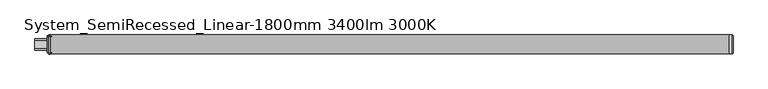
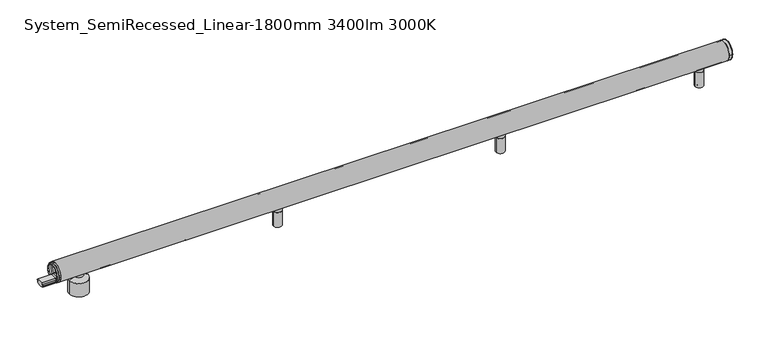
"""IFC4 building model written with IfcOpenShell, lengths in millimetres: light fixture geometry, ARTEMIDE-AoL-System-Linear_WallCeiling_US : System_SemiRecessed_Linear-1800mm 3400lm 3000K."""

from ifc_helpers import new_model, si_unit, point, frame, frame_2d, origin, place, context, project, spatial, polyline, circle_curve, ellipse_curve, trimmed, segment, composite_curve, outline, extrude, source, transform, mapped, element, save
from ifc_brep_helpers import plane_surface, cylinder_surface, revolved_surface, advanced_brep


def system_semirecessed_linear_1800mm_3400lm_3000k_442b0772(model_context):
    return source(origin(), model_context, "Body", "SolidModel", [
        advanced_brep(
        [(-2.0, 25.0245983, 74.9754017), (-2.0, -25.0245983, 74.9754017), (-2.0, -9.5062575, 60.6916114), (-2.0, -9.5062575, 64.3781516), (-2.0, 9.5062575, 64.3781516), (-2.0, 9.5062575, 60.6916114), (-2.0, 15.4273739, 60.6916114), (-2.0, 17.2867732, 60.6916114), (-2.0, -17.2867732, 60.6916114), (-2.0, -15.4273739, 60.6916114), (2.0, 25.0245983, 74.9754017), (2.0, -25.0245983, 74.9754017), (2.0, -9.5062575, 60.6916114), (2.0, -15.4273739, 60.6916114), (2.0, -17.2867732, 60.6916114), (2.0, 17.2867732, 60.6916114), (2.0, 15.4273739, 60.6916114), (2.0, 9.5062575, 60.6916114), (2.0, 9.5062575, 64.3781516), (2.0, -9.5062575, 64.3781516), (-6.0, -15.4273739, 60.6916114), (-6.0, -17.2867732, 60.6916114), (-6.0, 17.2867732, 60.6916114), (-6.0, 15.4273739, 60.6916114), (6.0, -15.4273739, 60.6916114), (6.0, 15.4273739, 60.6916114), (6.0, 17.2867732, 60.6916114), (6.0, -17.2867732, 60.6916114)],
        [
            (0, 1, circle_curve(frame((-2.0, 0.0, 74.9754017), z_axis=(-1.0, 0.0, 0.0), x_axis=(0.0, -1.0, 0.0)), 25.0245983)),
            (1, 0, circle_curve(frame((-2.0, 0.0, 74.9754017), z_axis=(-1.0, 0.0, 0.0), x_axis=(0.0, -1.0, 0.0)), 25.0245983)),
            (2, 3),
            (3, 4),
            (4, 5),
            (5, 6),
            (6, 7),
            (7, 8, circle_curve(frame((-2.0, 0.0, 74.9754017), z_axis=(1.0, 0.0, 0.0), x_axis=(0.0, -1.0, 0.0)), 22.4245221)),
            (8, 9),
            (9, 2),
            (10, 11, circle_curve(frame((2.0, 0.0, 74.9754017), z_axis=(1.0, 0.0, 0.0), x_axis=(0.0, -1.0, 0.0)), 25.0245983)),
            (11, 10, circle_curve(frame((2.0, 0.0, 74.9754017), z_axis=(1.0, 0.0, 0.0), x_axis=(0.0, -1.0, 0.0)), 25.0245983)),
            (12, 13),
            (13, 14),
            (14, 15, circle_curve(frame((2.0, 0.0, 74.9754017), z_axis=(-1.0, 0.0, 0.0), x_axis=(0.0, -1.0, 0.0)), 22.4245221)),
            (15, 16),
            (16, 17),
            (17, 18),
            (18, 19),
            (19, 12),
            (5, 17),
            (16, 6),
            (9, 13),
            (12, 2),
            (19, 3),
            (0, 10),
            (11, 1),
            (16, 13, circle_curve(frame((2.0, 0.0, 74.9754017), z_axis=(1.0, 0.0, 0.0), x_axis=(0.0, -1.0, 0.0)), 21.0245221)),
            (9, 6, circle_curve(frame((-2.0, 0.0, 74.9754017), z_axis=(-1.0, 0.0, 0.0), x_axis=(0.0, -1.0, 0.0)), 21.0245221)),
            (20, 21),
            (21, 22, circle_curve(frame((-6.0, 0.0, 74.9754017), z_axis=(-1.0, 0.0, 0.0), x_axis=(0.0, -1.0, 0.0)), 22.4245221)),
            (22, 23),
            (23, 20, circle_curve(frame((-6.0, 0.0, 74.9754017), z_axis=(1.0, 0.0, 0.0), x_axis=(0.0, -1.0, 0.0)), 21.0245221)),
            (24, 25, circle_curve(frame((6.0, 0.0, 74.9754017), z_axis=(-1.0, 0.0, 0.0), x_axis=(0.0, -1.0, 0.0)), 21.0245221)),
            (25, 26),
            (26, 27, circle_curve(frame((6.0, 0.0, 74.9754017), z_axis=(1.0, 0.0, 0.0), x_axis=(0.0, -1.0, 0.0)), 22.4245221)),
            (27, 24),
            (23, 6),
            (9, 20),
            (24, 13),
            (16, 25),
            (8, 21),
            (27, 14),
            (7, 22),
            (26, 15),
            (18, 4),
        ],
        [
            plane_surface(frame((-2.0, 0.0, 74.9754017), z_axis=(-1.0, 0.0, 0.0), x_axis=(0.0, 0.0, -1.0))),
            plane_surface(frame((2.0, 0.0, 74.9754017), z_axis=(1.0, 0.0, 0.0), x_axis=(0.0, 0.0, -1.0))),
            plane_surface(frame((-2.0, 9.5062575, 60.6916114), z_axis=(0.0, 0.0, 1.0), x_axis=(1.0, 0.0, 0.0))),
            plane_surface(frame((-2.0, -15.4273739, 60.6916114), z_axis=(0.0, 0.0, 1.0), x_axis=(1.0, 0.0, 0.0))),
            plane_surface(frame((-2.0, -9.5062575, 60.6916114), z_axis=(0.0, -1.0, 0.0), x_axis=(1.0, 0.0, 0.0))),
            cylinder_surface(frame((-2.0, 0.0, 74.9754017), z_axis=(-1.0, 0.0, 0.0), x_axis=(0.0, -1.0, 0.0)), 25.0245983),
            revolved_surface(polyline([(2.0, -21.0245221, 74.9754017), (-2.0, -21.0245221, 74.9754017)]), (-2.0, 0.0, 74.9754017), (1.0, 0.0, 0.0)),
            plane_surface(frame((-6.0, 0.0, 74.9754017), z_axis=(-1.0, 0.0, 0.0), x_axis=(0.0, 0.0, -1.0))),
            plane_surface(frame((6.0, 0.0, 74.9754017), z_axis=(1.0, 0.0, 0.0), x_axis=(0.0, 0.0, -1.0))),
            revolved_surface(polyline([(-2.0, -21.0245221, 74.9754017), (-6.0, -21.0245221, 74.9754017)]), (-6.0, 0.0, 74.9754017), (1.0, 0.0, 0.0)),
            revolved_surface(polyline([(6.0, -21.0245221, 74.9754017), (2.0, -21.0245221, 74.9754017)]), (-6.0, 0.0, 74.9754017), (1.0, 0.0, 0.0)),
            plane_surface(frame((-6.0, -15.4273739, 60.6916114), z_axis=(0.0, 0.0, -1.0), x_axis=(1.0, 0.0, 0.0))),
            cylinder_surface(frame((-6.0, 0.0, 74.9754017), z_axis=(-1.0, 0.0, 0.0), x_axis=(0.0, -1.0, 0.0)), 22.4245221),
            plane_surface(frame((-6.0, 17.2867732, 60.6916114), z_axis=(0.0, 0.0, -1.0), x_axis=(1.0, 0.0, 0.0))),
            plane_surface(frame((-2.0, -9.5062575, 64.3781516), z_axis=(0.0, 0.0, 1.0), x_axis=(1.0, 0.0, 0.0))),
            plane_surface(frame((-2.0, 9.5062575, 64.3781516), z_axis=(0.0, 1.0, 0.0), x_axis=(1.0, 0.0, 0.0))),
        ],
        [
            (0, [[1, 2], [3, 4, 5, 6, 7, 8, 9, 10]]),
            (1, [[11, 12], [13, 14, 15, 16, 17, 18, 19, 20]]),
            (2, [[-6, 21, -17, 22]]),
            (3, [[-10, 23, -13, 24]]),
            (4, [[-3, -24, -20, 25]]),
            (5, [[-1, 26, -12, 27]]),
            (6, [[-22, 28, -23, 29]]),
            (7, [[30, 31, 32, 33]]),
            (8, [[34, 35, 36, 37]]),
            (9, [[-33, 38, -29, 39]]),
            (10, [[-34, 40, -28, 41]]),
            (11, [[-30, -39, -9, 42]]),
            (11, [[-37, 43, -14, -40]]),
            (12, [[-31, -42, -8, 44]]),
            (12, [[-36, 45, -15, -43]]),
            (13, [[-32, -44, -7, -38]]),
            (13, [[-35, -41, -16, -45]]),
            (5, [[-2, -27, -11, -26]]),
            (14, [[-4, -25, -19, 46]]),
            (15, [[-5, -46, -18, -21]]),
        ],
    ),
        extrude(outline(composite_curve([segment(polyline([(-11.75, 57.2067494), (-15.304087, 57.2067494), (-15.304087, 58.7367744), (-9.5062575, 58.7367744), (-9.5062575, 64.3781516), (9.5062575, 64.3781516), (9.5062575, 58.7367744), (15.304087, 58.7367744), (15.304087, 57.2067494), (11.75, 57.2067494), (11.75, 52.880877)]), True, "CONTINUOUS"), segment(trimmed(circle_curve(frame_2d((0.0, 74.9754017)), 25.0245983), [point((11.75, 52.880877))], [point((-11.75, 52.880877))], False, "CARTESIAN"), True, "CONTINUOUS"), segment(polyline([(-11.75, 52.880877), (-11.75, 57.2067494)]), True, "CONTINUOUS")], self_intersect=False)), frame((2.0, 0.0, 0.0), z_axis=(1.0, 0.0, 0.0), x_axis=(0.0, 1.0, 0.0)), (0.0, 0.0, 1.0), 36.0),
        extrude(outline(composite_curve([segment(polyline([(-11.75, 57.2067494), (-15.304087, 57.2067494), (-15.304087, 58.7367744), (-9.5062575, 58.7367744), (-9.5062575, 64.3781516), (9.5062575, 64.3781516), (9.5062575, 58.7367744), (15.304087, 58.7367744), (15.304087, 57.2067494), (11.75, 57.2067494), (11.75, 52.880877)]), True, "CONTINUOUS"), segment(trimmed(circle_curve(frame_2d((0.0, 74.9754017)), 25.0245983), [point((11.75, 52.880877))], [point((-11.75, 52.880877))], False, "CARTESIAN"), True, "CONTINUOUS"), segment(polyline([(-11.75, 52.880877), (-11.75, 57.2067494)]), True, "CONTINUOUS")], self_intersect=False)), frame((-38.0, 0.0, 0.0), z_axis=(1.0, 0.0, 0.0), x_axis=(0.0, 1.0, 0.0)), (0.0, 0.0, 1.0), 36.0),
        advanced_brep(
        [(588.6387897, 0.0, 1.0), (598.027877, 0.0, 1.0), (598.027877, 0.0, 0.0), (588.6387897, 0.0, 0.0), (582.1387897, 0.0, 1.0), (604.527877, 0.0, 1.0), (582.1387897, 0.0, 42.5), (604.527877, 0.0, 42.5), (584.6144141, 0.0, 42.5), (602.0522526, 0.0, 42.5), (584.6144141, 0.0, 43.4995055), (602.0522526, 0.0, 43.4995055), (582.1387897, 0.0, 43.4995055), (604.527877, 0.0, 43.4995055), (582.1387897, 0.0, 52.9333396), (604.527877, 0.0, 52.9333396), (593.3333333, 0.0, 52.9333396), (593.3333333, 0.0, 0.0)],
        [
            (0, 1, circle_curve(frame((593.3333333, 0.0, 1.0), z_axis=(0.0, 0.0, -1.0), x_axis=(1.0, 0.0, 0.0)), 4.6945436)),
            (1, 2),
            (2, 3, circle_curve(frame((593.3333333, 0.0, 0.0), z_axis=(0.0, 0.0, 1.0), x_axis=(1.0, 0.0, 0.0)), 4.6945436)),
            (3, 0),
            (1, 0, circle_curve(frame((593.3333333, 0.0, 1.0), z_axis=(0.0, 0.0, -1.0), x_axis=(1.0, 0.0, 0.0)), 4.6945436)),
            (3, 2, circle_curve(frame((593.3333333, 0.0, 0.0), z_axis=(0.0, 0.0, 1.0), x_axis=(1.0, 0.0, 0.0)), 4.6945436)),
            (4, 5, circle_curve(frame((593.3333333, 0.0, 1.0), z_axis=(0.0, 0.0, -1.0), x_axis=(1.0, 0.0, 0.0)), 11.1945436)),
            (5, 1),
            (0, 4),
            (5, 4, circle_curve(frame((593.3333333, 0.0, 1.0), z_axis=(0.0, 0.0, -1.0), x_axis=(1.0, 0.0, 0.0)), 11.1945436)),
            (6, 7, circle_curve(frame((593.3333333, 0.0, 42.5), z_axis=(0.0, 0.0, -1.0), x_axis=(1.0, 0.0, 0.0)), 11.1945436)),
            (7, 5),
            (4, 6),
            (7, 6, circle_curve(frame((593.3333333, 0.0, 42.5), z_axis=(0.0, 0.0, -1.0), x_axis=(1.0, 0.0, 0.0)), 11.1945436)),
            (8, 9, circle_curve(frame((593.3333333, 0.0, 42.5), z_axis=(0.0, 0.0, -1.0), x_axis=(1.0, 0.0, 0.0)), 8.7189192)),
            (9, 7),
            (6, 8),
            (9, 8, circle_curve(frame((593.3333333, 0.0, 42.5), z_axis=(0.0, 0.0, -1.0), x_axis=(1.0, 0.0, 0.0)), 8.7189192)),
            (10, 11, circle_curve(frame((593.3333333, 0.0, 43.4995055), z_axis=(0.0, 0.0, -1.0), x_axis=(1.0, 0.0, 0.0)), 8.7189192)),
            (11, 9),
            (8, 10),
            (11, 10, circle_curve(frame((593.3333333, 0.0, 43.4995055), z_axis=(0.0, 0.0, -1.0), x_axis=(1.0, 0.0, 0.0)), 8.7189192)),
            (12, 13, circle_curve(frame((593.3333333, 0.0, 43.4995055), z_axis=(0.0, 0.0, -1.0), x_axis=(1.0, 0.0, 0.0)), 11.1945436)),
            (13, 11),
            (10, 12),
            (13, 12, circle_curve(frame((593.3333333, 0.0, 43.4995055), z_axis=(0.0, 0.0, -1.0), x_axis=(1.0, 0.0, 0.0)), 11.1945436)),
            (14, 15, circle_curve(frame((593.3333333, 0.0, 52.9333396), z_axis=(0.0, 0.0, -1.0), x_axis=(1.0, 0.0, 0.0)), 11.1945436)),
            (15, 13),
            (12, 14),
            (15, 14, circle_curve(frame((593.3333333, 0.0, 52.9333396), z_axis=(0.0, 0.0, -1.0), x_axis=(1.0, 0.0, 0.0)), 11.1945436)),
            (16, 15),
            (14, 16),
            (2, 17),
            (17, 3),
        ],
        [
            cylinder_surface(frame((593.3333333, 0.0, -58.83358), z_axis=(0.0, 0.0, 1.0), x_axis=(1.0, 0.0, 0.0)), 4.6945436),
            plane_surface(frame((593.3333333, 0.0, 1.0), z_axis=(0.0, 0.0, -1.0), x_axis=(1.0, 0.0, 0.0))),
            cylinder_surface(frame((593.3333333, 0.0, -58.83358), z_axis=(0.0, 0.0, 1.0), x_axis=(1.0, 0.0, 0.0)), 11.1945436),
            plane_surface(frame((593.3333333, 0.0, 42.5), z_axis=(0.0, 0.0, 1.0), x_axis=(1.0, 0.0, 0.0))),
            cylinder_surface(frame((593.3333333, 0.0, -58.83358), z_axis=(0.0, 0.0, 1.0), x_axis=(1.0, 0.0, 0.0)), 8.7189192),
            plane_surface(frame((593.3333333, 0.0, 43.4995055), z_axis=(0.0, 0.0, -1.0), x_axis=(1.0, 0.0, 0.0))),
            plane_surface(frame((593.3333333, 0.0, 52.9333396), z_axis=(0.0, 0.0, 1.0), x_axis=(1.0, 0.0, 0.0))),
            plane_surface(frame((593.3333333, 0.0, 0.0), z_axis=(0.0, 0.0, -1.0), x_axis=(1.0, 0.0, 0.0))),
        ],
        [
            (0, [[1, 2, 3, 4]]),
            (0, [[5, -4, 6, -2]]),
            (1, [[7, 8, -1, 9]]),
            (1, [[10, -9, -5, -8]]),
            (2, [[11, 12, -7, 13]]),
            (2, [[14, -13, -10, -12]]),
            (3, [[15, 16, -11, 17]]),
            (3, [[18, -17, -14, -16]]),
            (4, [[19, 20, -15, 21]]),
            (4, [[22, -21, -18, -20]]),
            (5, [[23, 24, -19, 25]]),
            (5, [[26, -25, -22, -24]]),
            (2, [[27, 28, -23, 29]]),
            (2, [[30, -29, -26, -28]]),
            (6, [[31, -27, 32]]),
            (6, [[-32, -30, -31]]),
            (7, [[-3, 33, 34]]),
            (7, [[-6, -34, -33]]),
        ],
    ),
        advanced_brep(
        [(1181.972123, 0.0, 1.0), (1191.3612103, 0.0, 1.0), (1191.3612103, 0.0, 0.0), (1181.972123, 0.0, 0.0), (1175.472123, 0.0, 1.0), (1197.8612103, 0.0, 1.0), (1175.472123, 0.0, 42.5), (1197.8612103, 0.0, 42.5), (1177.9477474, 0.0, 42.5), (1195.3855859, 0.0, 42.5), (1177.9477474, 0.0, 43.4995055), (1195.3855859, 0.0, 43.4995055), (1175.472123, 0.0, 43.4995055), (1197.8612103, 0.0, 43.4995055), (1175.472123, 0.0, 52.9333396), (1197.8612103, 0.0, 52.9333396), (1186.6666667, 0.0, 52.9333396), (1186.6666667, 0.0, 0.0)],
        [
            (0, 1, circle_curve(frame((1186.6666667, 0.0, 1.0), z_axis=(0.0, 0.0, -1.0), x_axis=(1.0, 0.0, 0.0)), 4.6945436)),
            (1, 2),
            (2, 3, circle_curve(frame((1186.6666667, 0.0, 0.0), z_axis=(0.0, 0.0, 1.0), x_axis=(1.0, 0.0, 0.0)), 4.6945436)),
            (3, 0),
            (1, 0, circle_curve(frame((1186.6666667, 0.0, 1.0), z_axis=(0.0, 0.0, -1.0), x_axis=(1.0, 0.0, 0.0)), 4.6945436)),
            (3, 2, circle_curve(frame((1186.6666667, 0.0, 0.0), z_axis=(0.0, 0.0, 1.0), x_axis=(1.0, 0.0, 0.0)), 4.6945436)),
            (4, 5, circle_curve(frame((1186.6666667, 0.0, 1.0), z_axis=(0.0, 0.0, -1.0), x_axis=(1.0, 0.0, 0.0)), 11.1945436)),
            (5, 1),
            (0, 4),
            (5, 4, circle_curve(frame((1186.6666667, 0.0, 1.0), z_axis=(0.0, 0.0, -1.0), x_axis=(1.0, 0.0, 0.0)), 11.1945436)),
            (6, 7, circle_curve(frame((1186.6666667, 0.0, 42.5), z_axis=(0.0, 0.0, -1.0), x_axis=(1.0, 0.0, 0.0)), 11.1945436)),
            (7, 5),
            (4, 6),
            (7, 6, circle_curve(frame((1186.6666667, 0.0, 42.5), z_axis=(0.0, 0.0, -1.0), x_axis=(1.0, 0.0, 0.0)), 11.1945436)),
            (8, 9, circle_curve(frame((1186.6666667, 0.0, 42.5), z_axis=(0.0, 0.0, -1.0), x_axis=(1.0, 0.0, 0.0)), 8.7189192)),
            (9, 7),
            (6, 8),
            (9, 8, circle_curve(frame((1186.6666667, 0.0, 42.5), z_axis=(0.0, 0.0, -1.0), x_axis=(1.0, 0.0, 0.0)), 8.7189192)),
            (10, 11, circle_curve(frame((1186.6666667, 0.0, 43.4995055), z_axis=(0.0, 0.0, -1.0), x_axis=(1.0, 0.0, 0.0)), 8.7189192)),
            (11, 9),
            (8, 10),
            (11, 10, circle_curve(frame((1186.6666667, 0.0, 43.4995055), z_axis=(0.0, 0.0, -1.0), x_axis=(1.0, 0.0, 0.0)), 8.7189192)),
            (12, 13, circle_curve(frame((1186.6666667, 0.0, 43.4995055), z_axis=(0.0, 0.0, -1.0), x_axis=(1.0, 0.0, 0.0)), 11.1945436)),
            (13, 11),
            (10, 12),
            (13, 12, circle_curve(frame((1186.6666667, 0.0, 43.4995055), z_axis=(0.0, 0.0, -1.0), x_axis=(1.0, 0.0, 0.0)), 11.1945436)),
            (14, 15, circle_curve(frame((1186.6666667, 0.0, 52.9333396), z_axis=(0.0, 0.0, -1.0), x_axis=(1.0, 0.0, 0.0)), 11.1945436)),
            (15, 13),
            (12, 14),
            (15, 14, circle_curve(frame((1186.6666667, 0.0, 52.9333396), z_axis=(0.0, 0.0, -1.0), x_axis=(1.0, 0.0, 0.0)), 11.1945436)),
            (16, 15),
            (14, 16),
            (2, 17),
            (17, 3),
        ],
        [
            cylinder_surface(frame((1186.6666667, 0.0, -58.83358), z_axis=(0.0, 0.0, 1.0), x_axis=(1.0, 0.0, 0.0)), 4.6945436),
            plane_surface(frame((1186.6666667, 0.0, 1.0), z_axis=(0.0, 0.0, -1.0), x_axis=(1.0, 0.0, 0.0))),
            cylinder_surface(frame((1186.6666667, 0.0, -58.83358), z_axis=(0.0, 0.0, 1.0), x_axis=(1.0, 0.0, 0.0)), 11.1945436),
            plane_surface(frame((1186.6666667, 0.0, 42.5), z_axis=(0.0, 0.0, 1.0), x_axis=(1.0, 0.0, 0.0))),
            cylinder_surface(frame((1186.6666667, 0.0, -58.83358), z_axis=(0.0, 0.0, 1.0), x_axis=(1.0, 0.0, 0.0)), 8.7189192),
            plane_surface(frame((1186.6666667, 0.0, 43.4995055), z_axis=(0.0, 0.0, -1.0), x_axis=(1.0, 0.0, 0.0))),
            plane_surface(frame((1186.6666667, 0.0, 52.9333396), z_axis=(0.0, 0.0, 1.0), x_axis=(1.0, 0.0, 0.0))),
            plane_surface(frame((1186.6666667, 0.0, 0.0), z_axis=(0.0, 0.0, -1.0), x_axis=(1.0, 0.0, 0.0))),
        ],
        [
            (0, [[1, 2, 3, 4]]),
            (0, [[5, -4, 6, -2]]),
            (1, [[7, 8, -1, 9]]),
            (1, [[10, -9, -5, -8]]),
            (2, [[11, 12, -7, 13]]),
            (2, [[14, -13, -10, -12]]),
            (3, [[15, 16, -11, 17]]),
            (3, [[18, -17, -14, -16]]),
            (4, [[19, 20, -15, 21]]),
            (4, [[22, -21, -18, -20]]),
            (5, [[23, 24, -19, 25]]),
            (5, [[26, -25, -22, -24]]),
            (2, [[27, 28, -23, 29]]),
            (2, [[30, -29, -26, -28]]),
            (6, [[31, -27, 32]]),
            (6, [[-32, -30, -31]]),
            (7, [[-3, 33, 34]]),
            (7, [[-6, -34, -33]]),
        ],
    ),
        advanced_brep(
        [(64.0, 0.0, 54.0), (76.0, 0.0, 54.0), (52.0, 0.0, 54.0), (39.0, 0.0, 0.0), (89.0, 0.0, 0.0), (64.0, 0.0, 0.0), (39.0, 0.0, 37.5120373), (89.0, 0.0, 37.5120373), (52.0, 0.0, 44.4453706), (76.0, 0.0, 44.4453706)],
        [
            (0, 1),
            (1, 2, circle_curve(frame((64.0, 0.0, 54.0), z_axis=(0.0, 0.0, 1.0), x_axis=(1.0, 0.0, 0.0)), 12.0)),
            (2, 0),
            (2, 1, circle_curve(frame((64.0, 0.0, 54.0), z_axis=(0.0, 0.0, 1.0), x_axis=(1.0, 0.0, 0.0)), 12.0)),
            (3, 4, circle_curve(frame((64.0, 0.0, 0.0), z_axis=(0.0, 0.0, -1.0), x_axis=(1.0, 0.0, 0.0)), 25.0)),
            (4, 5),
            (5, 3),
            (4, 3, circle_curve(frame((64.0, 0.0, 0.0), z_axis=(0.0, 0.0, -1.0), x_axis=(1.0, 0.0, 0.0)), 25.0)),
            (6, 7, circle_curve(frame((64.0, 0.0, 37.5120373), z_axis=(0.0, 0.0, -1.0), x_axis=(1.0, 0.0, 0.0)), 25.0)),
            (7, 4),
            (3, 6),
            (7, 6, circle_curve(frame((64.0, 0.0, 37.5120373), z_axis=(0.0, 0.0, -1.0), x_axis=(1.0, 0.0, 0.0)), 25.0)),
            (8, 9, circle_curve(frame((64.0, 0.0, 44.4453706), z_axis=(0.0, 0.0, -1.0), x_axis=(1.0, 0.0, 0.0)), 12.0)),
            (9, 7),
            (6, 8),
            (9, 8, circle_curve(frame((64.0, 0.0, 44.4453706), z_axis=(0.0, 0.0, -1.0), x_axis=(1.0, 0.0, 0.0)), 12.0)),
            (1, 9),
            (8, 2),
        ],
        [
            plane_surface(frame((64.0, 0.0, 54.0), z_axis=(0.0, 0.0, 1.0), x_axis=(1.0, 0.0, 0.0))),
            plane_surface(frame((64.0, 0.0, 0.0), z_axis=(0.0, 0.0, -1.0), x_axis=(1.0, 0.0, 0.0))),
            cylinder_surface(frame((64.0, 0.0, -58.83358), z_axis=(0.0, 0.0, 1.0), x_axis=(1.0, 0.0, 0.0)), 25.0),
            revolved_surface(polyline([(89.0, 0.0, 37.5120373), (76.0, 0.0, 44.4453706)]), (64.0, 0.0, -58.83358), (0.0, 0.0, 1.0)),
            cylinder_surface(frame((64.0, 0.0, -58.83358), z_axis=(0.0, 0.0, 1.0), x_axis=(1.0, 0.0, 0.0)), 12.0),
        ],
        [
            (0, [[1, 2, 3]]),
            (0, [[-3, 4, -1]]),
            (1, [[5, 6, 7]]),
            (1, [[8, -7, -6]]),
            (2, [[9, 10, -5, 11]]),
            (2, [[12, -11, -8, -10]]),
            (3, [[13, 14, -9, 15]]),
            (3, [[16, -15, -12, -14]]),
            (4, [[-2, 17, -13, 18]]),
            (4, [[-4, -18, -16, -17]]),
        ],
    ),
        advanced_brep(
        [(1711.3054564, 0.0, 1.0), (1720.6945436, 0.0, 1.0), (1720.6945436, 0.0, 0.0), (1711.3054564, 0.0, 0.0), (1704.8054564, 0.0, 1.0), (1727.1945436, 0.0, 1.0), (1704.8054564, 0.0, 42.5), (1727.1945436, 0.0, 42.5), (1707.2810808, 0.0, 42.5), (1724.7189192, 0.0, 42.5), (1707.2810808, 0.0, 43.4995055), (1724.7189192, 0.0, 43.4995055), (1704.8054564, 0.0, 43.4995055), (1727.1945436, 0.0, 43.4995055), (1704.8054564, 0.0, 52.9333396), (1727.1945436, 0.0, 52.9333396), (1716.0, 0.0, 52.9333396), (1716.0, 0.0, 0.0)],
        [
            (0, 1, circle_curve(frame((1716.0, 0.0, 1.0), z_axis=(0.0, 0.0, -1.0), x_axis=(1.0, 0.0, 0.0)), 4.6945436)),
            (1, 2),
            (2, 3, circle_curve(frame((1716.0, 0.0, 0.0), z_axis=(0.0, 0.0, 1.0), x_axis=(1.0, 0.0, 0.0)), 4.6945436)),
            (3, 0),
            (1, 0, circle_curve(frame((1716.0, 0.0, 1.0), z_axis=(0.0, 0.0, -1.0), x_axis=(1.0, 0.0, 0.0)), 4.6945436)),
            (3, 2, circle_curve(frame((1716.0, 0.0, 0.0), z_axis=(0.0, 0.0, 1.0), x_axis=(1.0, 0.0, 0.0)), 4.6945436)),
            (4, 5, circle_curve(frame((1716.0, 0.0, 1.0), z_axis=(0.0, 0.0, -1.0), x_axis=(1.0, 0.0, 0.0)), 11.1945436)),
            (5, 1),
            (0, 4),
            (5, 4, circle_curve(frame((1716.0, 0.0, 1.0), z_axis=(0.0, 0.0, -1.0), x_axis=(1.0, 0.0, 0.0)), 11.1945436)),
            (6, 7, circle_curve(frame((1716.0, 0.0, 42.5), z_axis=(0.0, 0.0, -1.0), x_axis=(1.0, 0.0, 0.0)), 11.1945436)),
            (7, 5),
            (4, 6),
            (7, 6, circle_curve(frame((1716.0, 0.0, 42.5), z_axis=(0.0, 0.0, -1.0), x_axis=(1.0, 0.0, 0.0)), 11.1945436)),
            (8, 9, circle_curve(frame((1716.0, 0.0, 42.5), z_axis=(0.0, 0.0, -1.0), x_axis=(1.0, 0.0, 0.0)), 8.7189192)),
            (9, 7),
            (6, 8),
            (9, 8, circle_curve(frame((1716.0, 0.0, 42.5), z_axis=(0.0, 0.0, -1.0), x_axis=(1.0, 0.0, 0.0)), 8.7189192)),
            (10, 11, circle_curve(frame((1716.0, 0.0, 43.4995055), z_axis=(0.0, 0.0, -1.0), x_axis=(1.0, 0.0, 0.0)), 8.7189192)),
            (11, 9),
            (8, 10),
            (11, 10, circle_curve(frame((1716.0, 0.0, 43.4995055), z_axis=(0.0, 0.0, -1.0), x_axis=(1.0, 0.0, 0.0)), 8.7189192)),
            (12, 13, circle_curve(frame((1716.0, 0.0, 43.4995055), z_axis=(0.0, 0.0, -1.0), x_axis=(1.0, 0.0, 0.0)), 11.1945436)),
            (13, 11),
            (10, 12),
            (13, 12, circle_curve(frame((1716.0, 0.0, 43.4995055), z_axis=(0.0, 0.0, -1.0), x_axis=(1.0, 0.0, 0.0)), 11.1945436)),
            (14, 15, circle_curve(frame((1716.0, 0.0, 52.9333396), z_axis=(0.0, 0.0, -1.0), x_axis=(1.0, 0.0, 0.0)), 11.1945436)),
            (15, 13),
            (12, 14),
            (15, 14, circle_curve(frame((1716.0, 0.0, 52.9333396), z_axis=(0.0, 0.0, -1.0), x_axis=(1.0, 0.0, 0.0)), 11.1945436)),
            (16, 15),
            (14, 16),
            (2, 17),
            (17, 3),
        ],
        [
            cylinder_surface(frame((1716.0, 0.0, -58.83358), z_axis=(0.0, 0.0, 1.0), x_axis=(1.0, 0.0, 0.0)), 4.6945436),
            plane_surface(frame((1716.0, 0.0, 1.0), z_axis=(0.0, 0.0, -1.0), x_axis=(1.0, 0.0, 0.0))),
            cylinder_surface(frame((1716.0, 0.0, -58.83358), z_axis=(0.0, 0.0, 1.0), x_axis=(1.0, 0.0, 0.0)), 11.1945436),
            plane_surface(frame((1716.0, 0.0, 42.5), z_axis=(0.0, 0.0, 1.0), x_axis=(1.0, 0.0, 0.0))),
            cylinder_surface(frame((1716.0, 0.0, -58.83358), z_axis=(0.0, 0.0, 1.0), x_axis=(1.0, 0.0, 0.0)), 8.7189192),
            plane_surface(frame((1716.0, 0.0, 43.4995055), z_axis=(0.0, 0.0, -1.0), x_axis=(1.0, 0.0, 0.0))),
            plane_surface(frame((1716.0, 0.0, 52.9333396), z_axis=(0.0, 0.0, 1.0), x_axis=(1.0, 0.0, 0.0))),
            plane_surface(frame((1716.0, 0.0, 0.0), z_axis=(0.0, 0.0, -1.0), x_axis=(1.0, 0.0, 0.0))),
        ],
        [
            (0, [[1, 2, 3, 4]]),
            (0, [[5, -4, 6, -2]]),
            (1, [[7, 8, -1, 9]]),
            (1, [[10, -9, -5, -8]]),
            (2, [[11, 12, -7, 13]]),
            (2, [[14, -13, -10, -12]]),
            (3, [[15, 16, -11, 17]]),
            (3, [[18, -17, -14, -16]]),
            (4, [[19, 20, -15, 21]]),
            (4, [[22, -21, -18, -20]]),
            (5, [[23, 24, -19, 25]]),
            (5, [[26, -25, -22, -24]]),
            (2, [[27, 28, -23, 29]]),
            (2, [[30, -29, -26, -28]]),
            (6, [[31, -27, 32]]),
            (6, [[-32, -30, -31]]),
            (7, [[-3, 33, 34]]),
            (7, [[-6, -34, -33]]),
        ],
    ),
        advanced_brep(
        [(1792.0, -22.0, 75.0), (1792.0, 22.0, 75.0), (1782.0, 25.0, 75.0), (1782.0, -25.0, 75.0), (1789.0, -25.0, 75.0), (1789.0, 25.0, 75.0)],
        [
            (0, 1, circle_curve(frame((1792.0, 0.0, 75.0), z_axis=(1.0, 0.0, 0.0), x_axis=(0.0, 1.0, 0.0)), 22.0)),
            (1, 0, circle_curve(frame((1792.0, 0.0, 75.0), z_axis=(1.0, 0.0, 0.0), x_axis=(0.0, -1.0, 0.0)), 22.0)),
            (2, 3, circle_curve(frame((1782.0, 0.0, 75.0), z_axis=(-1.0, 0.0, 0.0), x_axis=(0.0, 0.0, 1.0)), 25.0)),
            (3, 2, circle_curve(frame((1782.0, 0.0, 75.0), z_axis=(-1.0, 0.0, 0.0), x_axis=(0.0, 0.0, 1.0)), 25.0)),
            (3, 4),
            (4, 5, circle_curve(frame((1789.0, 0.0, 75.0), z_axis=(-1.0, 0.0, 0.0), x_axis=(0.0, 0.0, 1.0)), 25.0)),
            (5, 2),
            (5, 4, circle_curve(frame((1789.0, 0.0, 75.0), z_axis=(-1.0, 0.0, 0.0), x_axis=(0.0, 0.0, 1.0)), 25.0)),
            (0, 4, circle_curve(frame((1789.0, -22.0, 75.0), z_axis=(0.0, 0.0, -1.0), x_axis=(0.0, -1.0, 0.0)), 3.0)),
            (5, 1, circle_curve(frame((1789.0, 22.0, 75.0), z_axis=(0.0, 0.0, -1.0), x_axis=(0.0, 1.0, 0.0)), 3.0)),
        ],
        [
            plane_surface(frame((1792.0, 0.0, 100.0), z_axis=(1.0, 0.0, 0.0), x_axis=(0.0, -1.0, 0.0))),
            plane_surface(frame((1782.0, 0.0, 100.0), z_axis=(-1.0, 0.0, 0.0), x_axis=(0.0, 1.0, 0.0))),
            cylinder_surface(frame((1782.0, 0.0, 75.0), z_axis=(1.0, 0.0, 0.0), x_axis=(0.0, 0.0, 1.0)), 25.0),
            revolved_surface(trimmed(ellipse_curve(frame((1789.0, 22.0, 75.0), z_axis=(0.0, 0.0, 1.0), x_axis=(0.0, 1.0, 0.0)), 3.0, 3.0), [point((1792.0, 22.0, 75.0))], [point((1789.0, 25.0, 75.0))], True, "CARTESIAN"), (1792.0, 0.0, 75.0), (-1.0, 0.0, 0.0)),
            revolved_surface(trimmed(ellipse_curve(frame((1789.0, -22.0, 75.0), z_axis=(0.0, 0.0, -1.0), x_axis=(0.0, -1.0, 0.0)), 3.0, 3.0), [point((1792.0, -22.0, 75.0))], [point((1789.0, -25.0, 75.0))], True, "CARTESIAN"), (1792.0, 0.0, 75.0), (-1.0, 0.0, 0.0)),
        ],
        [
            (0, [[1, 2]]),
            (1, [[3, 4]]),
            (2, [[-4, 5, 6, 7]]),
            (2, [[-3, -7, 8, -5]]),
            (3, [[9, -8, 10, -1]]),
            (4, [[-9, -2, -10, -6]]),
        ],
    ),
        extrude(outline(composite_curve([segment(trimmed(circle_curve(frame_2d((0.0, 75.0)), 25.0), [point((-11.75, 52.9333396))], [point((11.75, 52.9333396))], False, "CARTESIAN"), True, "CONTINUOUS"), segment(polyline([(11.75, 52.9333396), (11.75, 57.259212), (13.667754, 57.259212), (13.667754, 55.8288843), (15.617754, 57.2440748), (15.617754, 59.244074), (12.667754, 59.244074), (12.667754, 60.744074), (17.2779794, 60.744074)]), True, "CONTINUOUS"), segment(trimmed(circle_curve(frame_2d((0.0, 75.0)), 22.4), [point((17.2779794, 60.744074))], [point((-17.2779794, 60.744074))], True, "CARTESIAN"), True, "CONTINUOUS"), segment(polyline([(-17.2779794, 60.744074), (-12.667754, 60.744074), (-12.667754, 59.244074), (-15.617754, 59.244074), (-15.617754, 57.2440748), (-13.667754, 55.8288843), (-13.667754, 57.259212), (-11.75, 57.259212), (-11.75, 52.9333396)]), True, "CONTINUOUS")], self_intersect=False)), frame((2.0, 0.0, 0.0), z_axis=(1.0, 0.0, 0.0), x_axis=(0.0, 1.0, 0.0)), (0.0, 0.0, 1.0), 1780.0),
        extrude(outline(composite_curve([segment(trimmed(circle_curve(frame_2d((0.0, 75.0)), 25.0), [point((11.75, 52.9333396))], [point((-11.75, 52.9333396))], False, "CARTESIAN"), True, "CONTINUOUS"), segment(polyline([(-11.75, 52.9333396), (-11.75, 57.259212), (-15.304087, 57.259212), (-15.304087, 58.785971), (-9.5062575, 58.785971), (-9.5062575, 64.4273482), (9.5062575, 64.4273482), (9.5062575, 58.785971), (15.304087, 58.785971), (15.304087, 57.259212), (11.75, 57.259212), (11.75, 52.9333396)]), True, "CONTINUOUS")], self_intersect=False)), frame((38.0, 0.0, 0.0), z_axis=(1.0, 0.0, 0.0), x_axis=(0.0, 1.0, 0.0)), (0.0, 0.0, 1.0), 1744.0),
    ])


if __name__ == "__main__":
    model = new_model("IFC4")
    model_context = context("Model", 3, world=origin())
    ifc_project = project(units=[si_unit("LENGTHUNIT", "METRE", prefix="MILLI")], contexts=[model_context])
    site = spatial("IfcSite", under=ifc_project)
    building = spatial("IfcBuilding", under=site)
    placement = place(None, origin())
    system_semirecessed_linear_1800mm_3400lm_3000k_shape = system_semirecessed_linear_1800mm_3400lm_3000k_442b0772(model_context)
    element("IfcLightFixture", 1, ObjectType="ARTEMIDE-AoL-System-Linear_WallCeiling_US : System_SemiRecessed_Linear-1800mm 3400lm 3000K", at=placement, inside=building, context=model_context, shape_type="MappedRepresentation", body=[
        mapped(system_semirecessed_linear_1800mm_3400lm_3000k_shape, transform((0.0, 0.0, 0.0), x_axis=(1.0, 0.0, 0.0), y_axis=(0.0, 1.0, 0.0), z_axis=(0.0, 0.0, 1.0))),
    ])
    save(model, "model.ifc")
